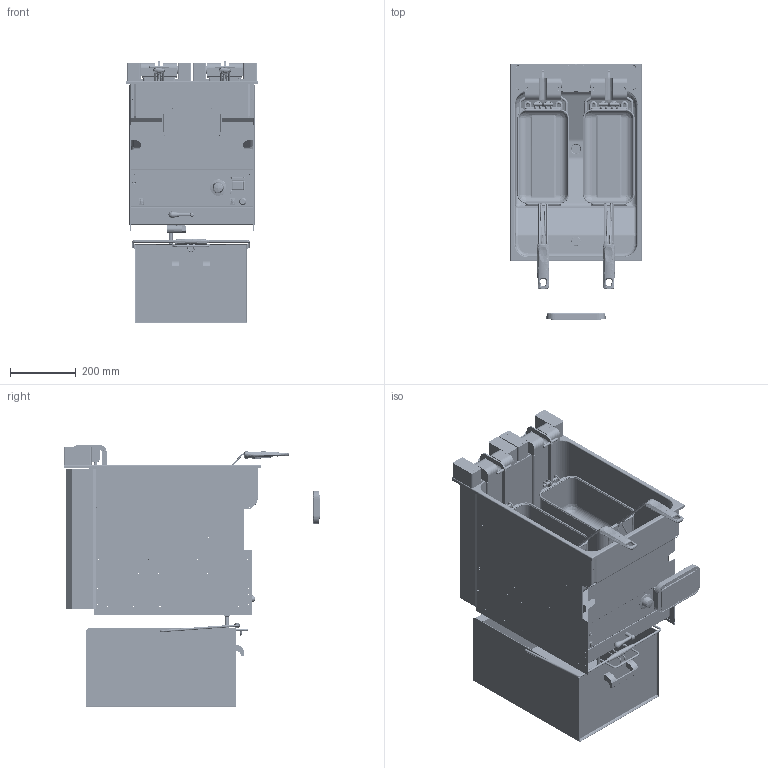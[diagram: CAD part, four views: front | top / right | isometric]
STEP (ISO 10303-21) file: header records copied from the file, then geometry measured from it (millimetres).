
FILE_DESCRIPTION(/* description */ (''),/* implementation_level */ '2;1');
FILE_NAME(/* name */ 'CORE SMART 400 E',/* time_stamp */ '2025-10-22T13:28:38+02:00',/* author */ (''),/* organization */ (''),/* preprocessor_version */ 'ST-DEVELOPER v19.2',/* originating_system */ 'Rhino 8.23',/* authorisation */ '');
FILE_SCHEMA (('CONFIG_CONTROL_DESIGN'));
Products named in the file (1): Document
Bounding box: 398 x 778.5 x 795.9 mm (x, y, z)
Volume: 5298942.4 mm3; surface area: 6852116.3 mm2
Topology: 133 solids, 159 shells, 7389 faces, 19036 edges, 11995 vertices
Faces by surface type: plane 2687, cylinder 2656, bspline 2046
Full cylindrical faces by diameter (mm): 27 x2
Entity records: 395184 total; most frequent: CARTESIAN_POINT 241439, ORIENTED_EDGE 37741, EDGE_CURVE 18982, DIRECTION 18473, VERTEX_POINT 11995, AXIS2_PLACEMENT_3D 11908, B_SPLINE_CURVE_WITH_KNOTS 11702, EDGE_LOOP 8069
